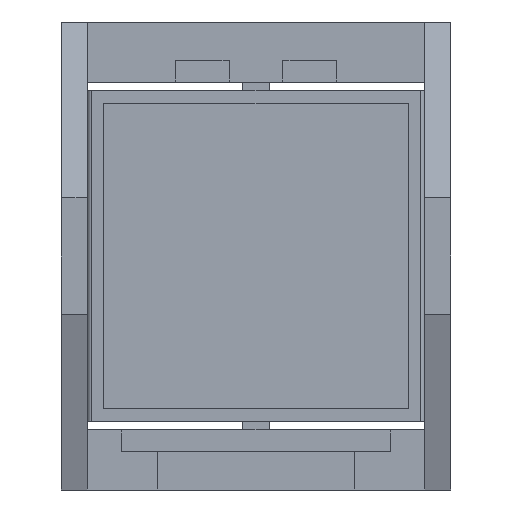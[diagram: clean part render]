
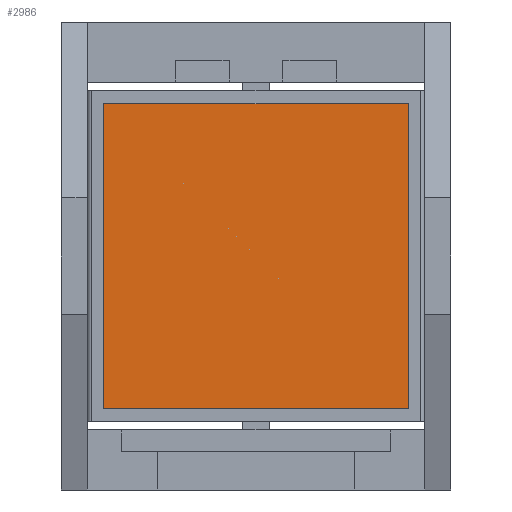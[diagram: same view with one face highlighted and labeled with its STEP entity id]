
A CAD part, front view. The second image highlights one B-rep face of the part: STEP entity #2986.
In plain terms, the highlighted planar face has unit normal (0, -1, 0).
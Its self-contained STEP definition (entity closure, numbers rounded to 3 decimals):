
#157 = EDGE_CURVE ( 'NONE', #6205, #2901, #2975, .T. ) ;
#186 = DIRECTION ( 'NONE',  ( 0., 1., 0. ) ) ;
#237 = ORIENTED_EDGE ( 'NONE', *, *, #2755, .F. ) ;
#487 = DIRECTION ( 'NONE',  ( -1., 0., 0. ) ) ;
#747 = FACE_OUTER_BOUND ( 'NONE', #5201, .T. ) ;
#764 = ORIENTED_EDGE ( 'NONE', *, *, #5576, .F. ) ;
#1035 = VECTOR ( 'NONE', #487, 1000. ) ;
#1175 = CARTESIAN_POINT ( 'NONE',  ( -9.011, -2.481, -6.631 ) ) ;
#1332 = AXIS2_PLACEMENT_3D ( 'NONE', #4864, #186, #3272 ) ;
#1521 = CARTESIAN_POINT ( 'NONE',  ( -9.011, -2.481, -6.631 ) ) ;
#2377 = VECTOR ( 'NONE', #5523, 1000. ) ;
#2440 = VECTOR ( 'NONE', #4674, 1000. ) ;
#2646 = LINE ( 'NONE', #6532, #2440 ) ;
#2755 = EDGE_CURVE ( 'NONE', #5318, #6205, #5995, .T. ) ;
#2832 = PLANE ( 'NONE',  #1332 ) ;
#2901 = VERTEX_POINT ( 'NONE', #1175 ) ;
#2975 = LINE ( 'NONE', #1521, #1035 ) ;
#2986 = ADVANCED_FACE ( 'NONE', ( #747 ), #2832, .F. ) ;
#3089 = LINE ( 'NONE', #5660, #2377 ) ;
#3097 = CARTESIAN_POINT ( 'NONE',  ( 7.989, -2.481, 10.369 ) ) ;
#3272 = DIRECTION ( 'NONE',  ( 0., 0., 1. ) ) ;
#4003 = ORIENTED_EDGE ( 'NONE', *, *, #157, .F. ) ;
#4145 = ORIENTED_EDGE ( 'NONE', *, *, #4150, .F. ) ;
#4150 = EDGE_CURVE ( 'NONE', #5083, #5318, #2646, .T. ) ;
#4416 = VECTOR ( 'NONE', #5533, 1000. ) ;
#4674 = DIRECTION ( 'NONE',  ( 1., 0., 0. ) ) ;
#4780 = CARTESIAN_POINT ( 'NONE',  ( -9.011, -2.481, 10.369 ) ) ;
#4864 = CARTESIAN_POINT ( 'NONE',  ( -9.011, -2.481, 10.369 ) ) ;
#4959 = CARTESIAN_POINT ( 'NONE',  ( 7.989, -2.481, -6.631 ) ) ;
#5083 = VERTEX_POINT ( 'NONE', #4780 ) ;
#5201 = EDGE_LOOP ( 'NONE', ( #764, #4003, #237, #4145 ) ) ;
#5318 = VERTEX_POINT ( 'NONE', #3097 ) ;
#5523 = DIRECTION ( 'NONE',  ( 0., 0., 1. ) ) ;
#5533 = DIRECTION ( 'NONE',  ( 0., 0., -1. ) ) ;
#5576 = EDGE_CURVE ( 'NONE', #2901, #5083, #3089, .T. ) ;
#5660 = CARTESIAN_POINT ( 'NONE',  ( -9.011, -2.481, -6.631 ) ) ;
#5995 = LINE ( 'NONE', #6438, #4416 ) ;
#6205 = VERTEX_POINT ( 'NONE', #4959 ) ;
#6438 = CARTESIAN_POINT ( 'NONE',  ( 7.989, -2.481, -6.631 ) ) ;
#6532 = CARTESIAN_POINT ( 'NONE',  ( -9.011, -2.481, 10.369 ) ) ;
